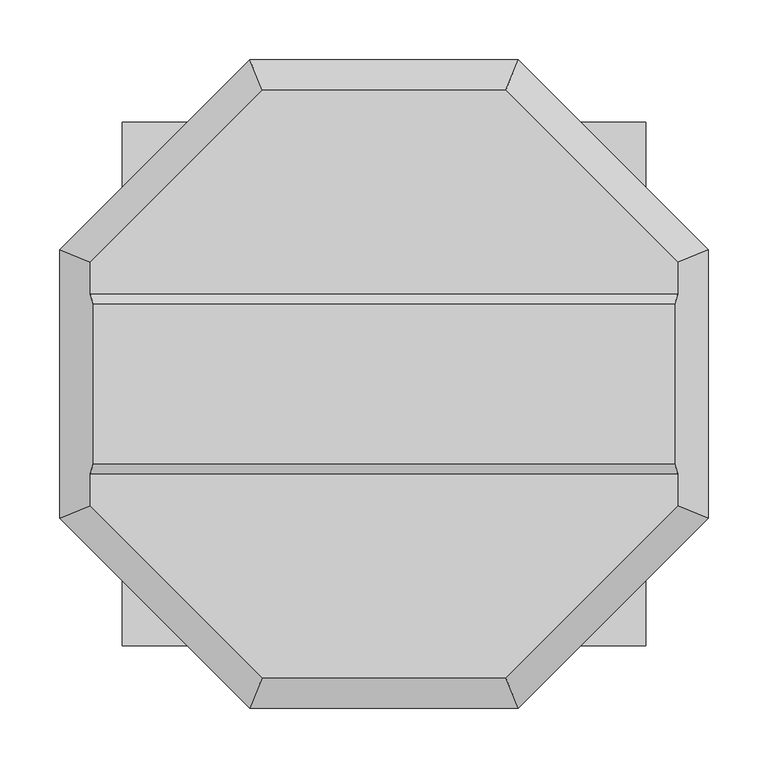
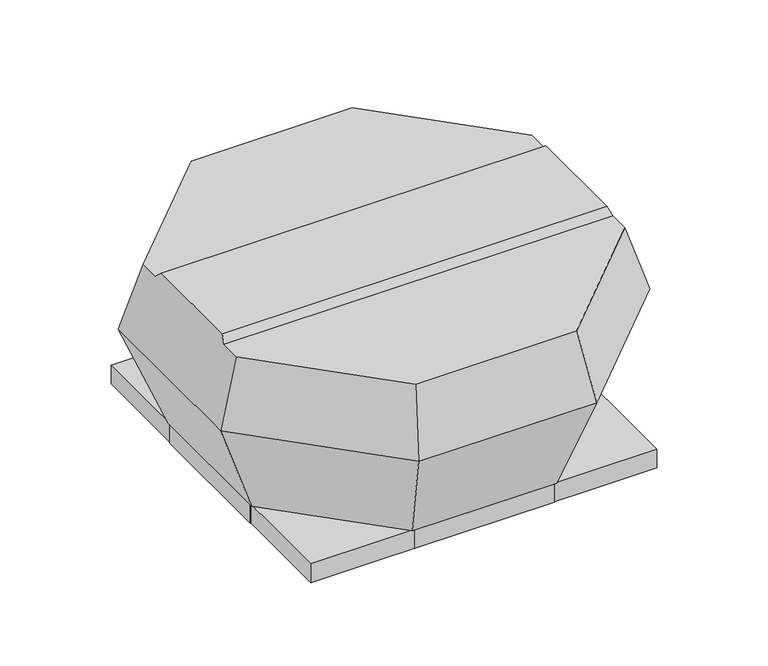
"""IFC4 building model written with IfcOpenShell, lengths in millimetres: unitary equipment geometry, VE-Wentylator-ParaForma-Harmann-VIVO-Wywiewny : 4-280/1300S."""

from ifc_helpers import new_model, si_unit, origin, place, context, project, spatial, faceted_brep, source, transform, mapped, element, save


def unitary_equipment_568211d7(model_context):
    return source(origin(), model_context, "Body", "Brep", [
        faceted_brep([(242.8698844, -66.5, 224.5), (242.8698844, 66.5, 224.5), (-242.8698844, 66.5, 224.5), (-242.8698844, -66.5, 224.5), (245.4048086, 74.9, 216.1), (-245.4048086, 74.9, 216.1), (245.4048086, -74.9, 216.1), (-245.4048086, -74.9, 216.1), (101.65, -245.4048086, 216.1), (245.4048086, -101.65, 216.1), (-245.4048086, -101.65, 216.1), (-101.65, -245.4048086, 216.1), (245.4048086, 101.65, 216.1), (101.65, 245.4048086, 216.1), (-101.65, 245.4048086, 216.1), (-245.4048086, 101.65, 216.1), (112.15, -270.754051, 132.1), (270.754051, -112.15, 132.1), (270.754051, 112.15, 132.1), (112.15, 270.754051, 132.1), (-112.15, 270.754051, 132.1), (-270.754051, 112.15, 132.1), (-270.754051, -112.15, 132.1), (-112.15, -270.754051, 132.1), (91.0, -219.6934342, 1.0), (-91.0, -219.6934342, 1.0), (-219.6934342, -91.0, 1.0), (-219.6934342, 91.0, 1.0), (-91.0, 219.6934342, 1.0), (91.0, 219.6934342, 1.0), (219.6934342, 91.0, 1.0), (219.6934342, -91.0, 1.0)], [[[0, 1, 2, 3]], [[1, 4, 5, 2]], [[6, 0, 3, 7]], [[8, 9, 6, 7, 10, 11]], [[12, 13, 14, 15, 5, 4]], [[9, 8, 16, 17]], [[9, 17, 18, 12, 4, 1, 0, 6]], [[13, 12, 18, 19]], [[14, 13, 19, 20]], [[15, 14, 20, 21]], [[15, 21, 22, 10, 7, 3, 2, 5]], [[11, 10, 22, 23]], [[8, 11, 23, 16]], [[24, 25, 26, 27, 28, 29, 30, 31]], [[24, 31, 17, 16]], [[31, 30, 18, 17]], [[30, 29, 19, 18]], [[29, 28, 20, 19]], [[28, 27, 21, 20]], [[27, 26, 22, 21]], [[26, 25, 23, 22]], [[25, 24, 16, 23]]]),
        faceted_brep([(217.5, 217.5, -24.0), (217.5, 217.5, 0.0), (-217.5, 217.5, 0.0), (-217.5, 217.5, -24.0), (218.5, 218.5, 1.0), (218.5, 218.5, -24.0), (-218.5, 218.5, -24.0), (-218.5, 218.5, 1.0), (-217.5, -217.5, 0.0), (-217.5, -217.5, -24.0), (-218.5, -218.5, -24.0), (-218.5, -218.5, 1.0), (217.5, -217.5, 0.0), (217.5, -217.5, -24.0), (218.5, -218.5, -24.0), (218.5, -218.5, 1.0)], [[[0, 1, 2, 3]], [[4, 5, 6, 7]], [[3, 2, 8, 9]], [[7, 6, 10, 11]], [[9, 8, 12, 13]], [[11, 10, 14, 15]], [[13, 12, 1, 0]], [[5, 14, 10, 6], [3, 9, 13, 0]], [[15, 14, 5, 4]], [[7, 11, 15, 4]], [[1, 12, 8, 2]]]),
        faceted_brep([(-218.5, -88.0, -23.5), (-219.5, -88.0, -23.5), (-219.5, 88.0, -23.5), (-218.5, 88.0, -23.5), (-218.5, -88.0, 1.5), (-218.5, 88.0, 1.5), (-219.5, 88.0, 1.5), (-219.5, -88.0, 1.5)], [[[0, 1, 2, 3]], [[4, 5, 6, 7]], [[1, 0, 4, 7]], [[2, 1, 7, 6]], [[3, 2, 6, 5]], [[0, 3, 5, 4]]]),
        faceted_brep([(219.5, -88.0, -23.5), (218.5, -88.0, -23.5), (218.5, 88.0, -23.5), (219.5, 88.0, -23.5), (219.5, 88.0, 1.5), (218.5, 88.0, 1.5), (218.5, 5.0, 1.5), (218.5, -5.0, 1.5), (218.5, -88.0, 1.5), (219.5, -88.0, 1.5), (219.5, -5.0, 1.5), (219.5, 5.0, 1.5)], [[[0, 1, 2, 3]], [[4, 5, 6, 7, 8, 9, 10, 11]], [[1, 0, 9, 8]], [[2, 1, 8, 7, 6, 5]], [[3, 2, 5, 4]], [[0, 3, 4, 11, 10, 9]]]),
        faceted_brep([(88.0, 218.5, -23.5), (-88.0, 218.5, -23.5), (-88.0, 219.5, -23.5), (88.0, 219.5, -23.5), (88.0, 218.5, 1.5), (88.0, 219.5, 1.5), (-88.0, 219.5, 1.5), (-88.0, 218.5, 1.5)], [[[0, 1, 2, 3]], [[4, 5, 6, 7]], [[1, 0, 4, 7]], [[2, 1, 7, 6]], [[3, 2, 6, 5]], [[0, 3, 5, 4]]]),
        faceted_brep([(88.0, -219.5, -23.5), (-88.0, -219.5, -23.5), (-88.0, -218.5, -23.5), (88.0, -218.5, -23.5), (88.0, -219.5, 1.5), (88.0, -218.5, 1.5), (-88.0, -218.5, 1.5), (-88.0, -219.5, 1.5)], [[[0, 1, 2, 3]], [[4, 5, 6, 7]], [[1, 0, 4, 7]], [[2, 1, 7, 6]], [[3, 2, 6, 5]], [[0, 3, 5, 4]]]),
    ])


if __name__ == "__main__":
    model = new_model("IFC4")
    model_context = context("Model", 3, world=origin())
    ifc_project = project(units=[si_unit("LENGTHUNIT", "METRE", prefix="MILLI")], contexts=[model_context])
    site = spatial("IfcSite", under=ifc_project)
    building = spatial("IfcBuilding", under=site)
    placement = place(None, origin())
    unitary_equipment_shape = unitary_equipment_568211d7(model_context)
    element("IfcUnitaryEquipment", 1, ObjectType="VE-Wentylator-ParaForma-Harmann-VIVO-Wywiewny : 4-280/1300S", at=placement, inside=building, context=model_context, shape_type="MappedRepresentation", body=[
        mapped(unitary_equipment_shape, transform((0.0, 0.0, 0.0), x_axis=(1.0, 0.0, 0.0), y_axis=(0.0, 1.0, 0.0), z_axis=(0.0, 0.0, 1.0))),
    ])
    save(model, "model.ifc")
